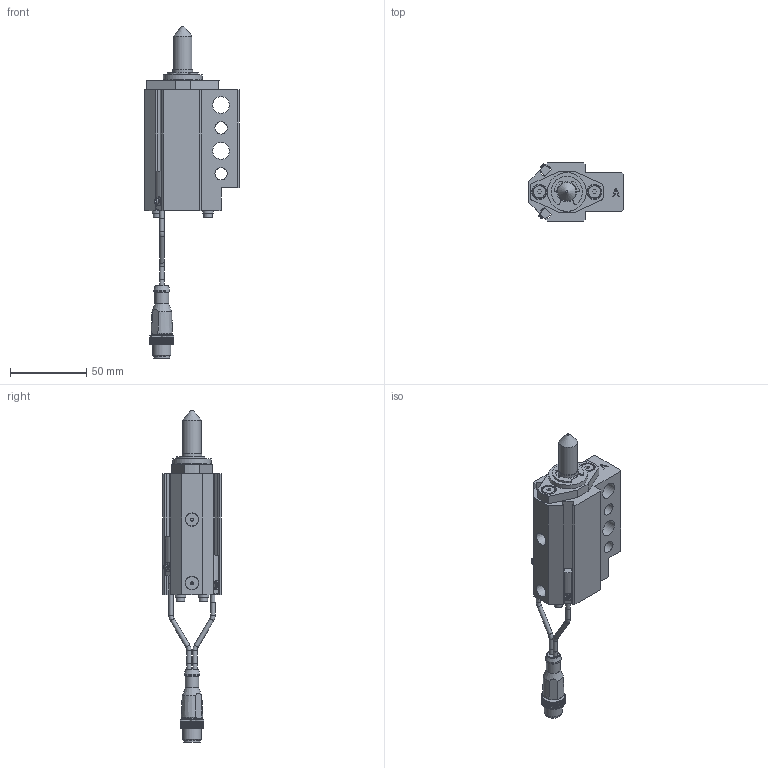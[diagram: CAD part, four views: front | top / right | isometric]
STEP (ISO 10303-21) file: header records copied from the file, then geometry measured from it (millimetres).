
FILE_DESCRIPTION(/* description */ ('NAAMS FLOATING MICRO PIN'),/* implementation_level */ '2;1');
FILE_NAME(/* name */ 'C:\Vault Workspace\CAD\Welker\Shot Pin\NMP\NMP120022AANL3.stp',/* time_stamp */ '2021-01-27T10:20:46-05:00',/* author */ ('WELKER'),/* organization */ (''),/* preprocessor_version */ 'ST-DEVELOPER v18.1',/* originating_system */ 'Autodesk Inventor 2020',/* authorisation */ '');
FILE_SCHEMA (('AUTOMOTIVE_DESIGN { 1 0 10303 214 3 1 1 }'));
Length unit declared in the file: millimetre
Products named in the file (16): NMPL01; NMP L3 SWITCH; L3 Connector; L3 Sensor 1; L3 Sensor 2; L3 Sensor cable; L3 Sensor cable 2; M3X0.5-8 SHCS; NL3; NMPE06; NMPE03; NMPE05-DIA-LENGTH; 985432A218; NMPE01A-PORT; RMPE02; M5X5 SHOULDER
Assembly tree (22 placements, depth 3):
  NMPL01
    NMP L3 SWITCH
      L3 Connector
      L3 Sensor 1
      L3 Sensor 2
      L3 Sensor cable
      L3 Sensor cable 2
    M3X0.5-8 SHCS  x4
    NL3  x4
    NMPE06
    NMPE03
    NMPE05-DIA-LENGTH
    985432A218
    NMPE01A-PORT
    RMPE02
    M5X5 SHOULDER  x2
Bounding box: 62 x 38.1 x 217.12 mm (x, y, z)
Volume: 110574 mm3; surface area: 45946.9 mm2
Topology: 21 solids, 21 shells, 744 faces, 2018 edges, 1349 vertices
Faces by surface type: plane 553, cylinder 144, cone 31, torus 11, sphere 3, bspline 2
Full cylindrical faces by diameter (mm): 2 x2, 2.459 x4, 2.9 x10, 3 x5, 3.242 x2, 3.4 x4, 4 x2, 5 x6, 5.5 x4, 7 x4, 8 x2, 8.3 x2, 9 x3, 10 x3, 10.4 x1, 10.5 x1, 11 x2, 12 x2, 13 x3, 16 x2, 19.05 x3, 21 x1, 22.5 x1, 23.672 x1, 24 x1, 25.4 x1, 25.5 x1, 26.5 x1, 28.677 x1, 29.21 x1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
Entity records: 22752 total; most frequent: CARTESIAN_POINT 4155, ORIENTED_EDGE 3734, DIRECTION 3717, EDGE_CURVE 1867, LINE 1383, VECTOR 1383, VERTEX_POINT 1254, AXIS2_PLACEMENT_3D 1167
